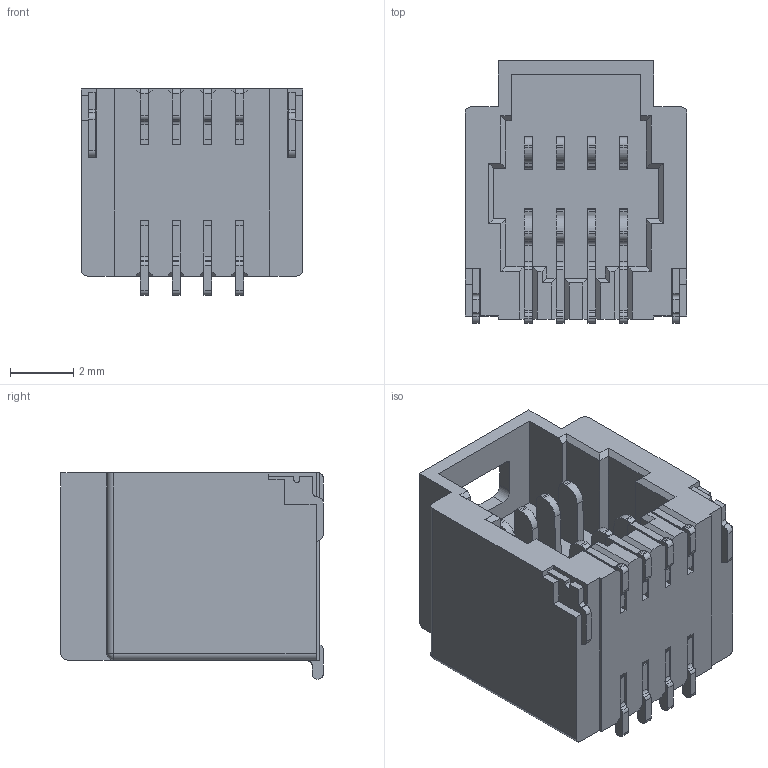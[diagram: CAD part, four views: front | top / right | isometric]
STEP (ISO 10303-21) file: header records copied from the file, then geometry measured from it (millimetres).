
FILE_DESCRIPTION(('CATIA V5 STEP Exchange'),'2;1');
FILE_NAME('\\Erp\共享文件夹\3D文件\小覃\条形连接器-小黄\1.0系列\德利\SHB(双排)\2xNPWT\HC-SHB-2x4PWT-05(1.0 双排 卧贴-HCTL).stp','2025-03-19T07:05:11+00:00',('none'),('none'),'CATIA Version 5 Release 20 GA (IN-10)','CATIA V5 STEP AP203','none');
FILE_SCHEMA(('CONFIG_CONTROL_DESIGN'));
Length unit declared in the file: millimetre
Products named in the file (1): Part2
Bounding box: 7 x 8.27 x 6.5 mm (x, y, z)
Volume: 226.7 mm3; surface area: 601.4 mm2
Topology: 9 solids, 9 shells, 464 faces, 1314 edges, 862 vertices
Faces by surface type: plane 327, cylinder 135, sphere 2
Entity records: 13247 total; most frequent: ORIENTED_EDGE 2624, CARTESIAN_POINT 2374, DIRECTION 1647, EDGE_CURVE 1312, VECTOR 1021, LINE 1021, VERTEX_POINT 862, EDGE_LOOP 470
